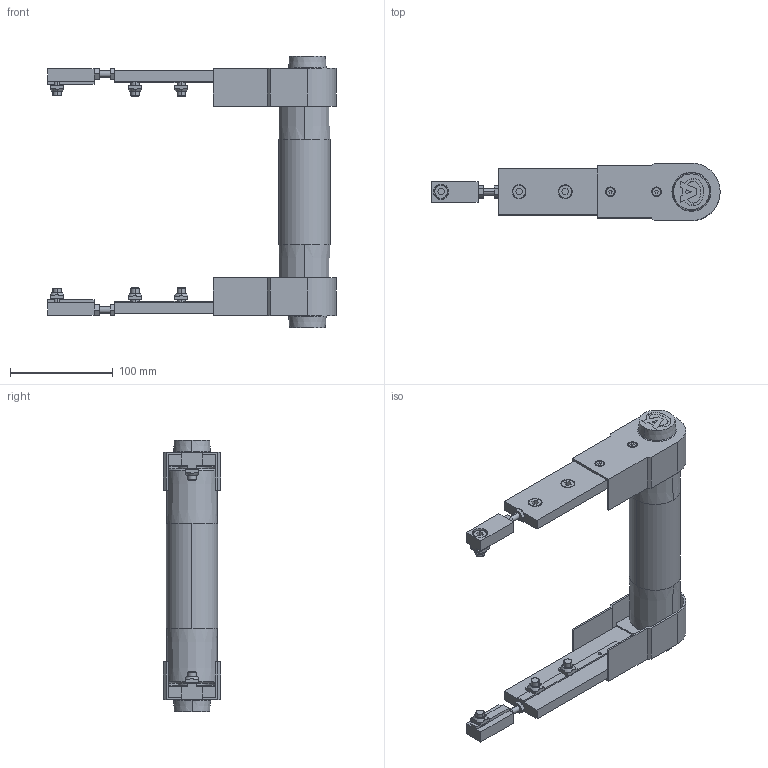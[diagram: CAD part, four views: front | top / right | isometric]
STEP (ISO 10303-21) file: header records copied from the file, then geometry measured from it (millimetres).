
FILE_DESCRIPTION (( 'STEP AP203' ), '1' );
FILE_NAME ('084.050.KIS.185.STEP', '2017-01-31T10:13:30', ( 'Localadmin' ), ( 'Microsoft' ), 'SwSTEP 2.0', 'SolidWorks 2016', '' );
FILE_SCHEMA (( 'CONFIG_CONTROL_DESIGN' ));
Length unit declared in the file: millimetre
Products named in the file (1): 084.050.KIS.185
Bounding box: 281 x 56 x 265 mm (x, y, z)
Volume: 422930.4 mm3; surface area: 252466.4 mm2
Topology: 29 solids, 29 shells, 760 faces, 1930 edges, 1262 vertices
Faces by surface type: plane 418, cylinder 190, cone 72, torus 60, bspline 16, sphere 4
Entity records: 23507 total; most frequent: CARTESIAN_POINT 4605, DIRECTION 4020, ORIENTED_EDGE 3836, EDGE_CURVE 1918, AXIS2_PLACEMENT_3D 1449, VERTEX_POINT 1258, VECTOR 1122, LINE 1122
